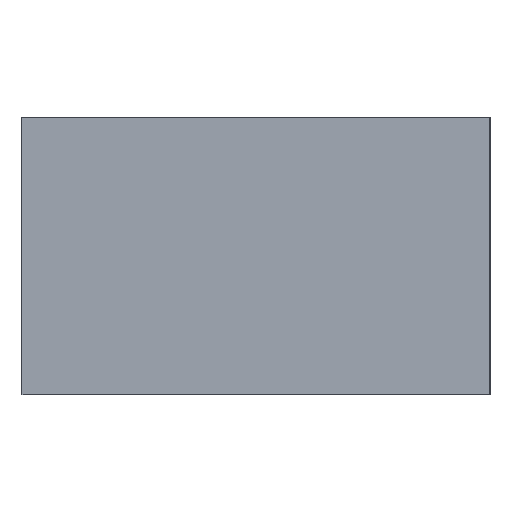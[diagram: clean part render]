
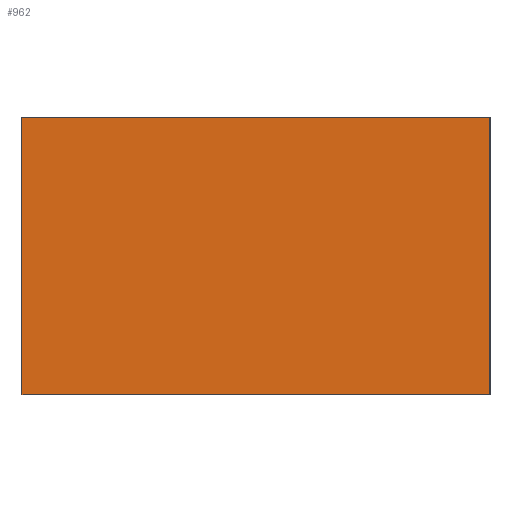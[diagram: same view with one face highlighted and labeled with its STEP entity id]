
A CAD part, front view. The second image highlights one B-rep face of the part: STEP entity #962.
In plain terms, the highlighted planar face has unit normal (0, -1, 0).
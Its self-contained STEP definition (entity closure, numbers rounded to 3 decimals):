
#26 = AXIS2_PLACEMENT_3D ( 'NONE', #38, #1363, #1260 ) ;
#38 = CARTESIAN_POINT ( 'NONE',  ( 0., 0., -10. ) ) ;
#115 = VECTOR ( 'NONE', #1088, 1000. ) ;
#160 = CARTESIAN_POINT ( 'NONE',  ( 16.891, 0., 0. ) ) ;
#176 = PLANE ( 'NONE',  #26 ) ;
#209 = ORIENTED_EDGE ( 'NONE', *, *, #1730, .F. ) ;
#277 = LINE ( 'NONE', #561, #1650 ) ;
#325 = ORIENTED_EDGE ( 'NONE', *, *, #1211, .F. ) ;
#373 = CARTESIAN_POINT ( 'NONE',  ( 0., 0., -10. ) ) ;
#432 = VECTOR ( 'NONE', #661, 1000. ) ;
#520 = VERTEX_POINT ( 'NONE', #1110 ) ;
#525 = CARTESIAN_POINT ( 'NONE',  ( 0., 0., 0. ) ) ;
#550 = VERTEX_POINT ( 'NONE', #160 ) ;
#561 = CARTESIAN_POINT ( 'NONE',  ( 0., 0., -10. ) ) ;
#661 = DIRECTION ( 'NONE',  ( 1., 0., 0. ) ) ;
#720 = DIRECTION ( 'NONE',  ( 0., 0., 1. ) ) ;
#827 = LINE ( 'NONE', #1095, #1024 ) ;
#945 = LINE ( 'NONE', #1580, #432 ) ;
#962 = ADVANCED_FACE ( 'NONE', ( #1250 ), #176, .T. ) ;
#1024 = VECTOR ( 'NONE', #720, 1000. ) ;
#1068 = LINE ( 'NONE', #1333, #115 ) ;
#1072 = ORIENTED_EDGE ( 'NONE', *, *, #1689, .T. ) ;
#1088 = DIRECTION ( 'NONE',  ( 1., 0., 0. ) ) ;
#1095 = CARTESIAN_POINT ( 'NONE',  ( 16.891, 0., -10. ) ) ;
#1110 = CARTESIAN_POINT ( 'NONE',  ( 16.891, 0., -10. ) ) ;
#1211 = EDGE_CURVE ( 'NONE', #1691, #550, #1068, .T. ) ;
#1250 = FACE_OUTER_BOUND ( 'NONE', #1351, .T. ) ;
#1260 = DIRECTION ( 'NONE',  ( 0., 0., -1. ) ) ;
#1266 = ORIENTED_EDGE ( 'NONE', *, *, #1338, .T. ) ;
#1333 = CARTESIAN_POINT ( 'NONE',  ( 0., 0., 0. ) ) ;
#1338 = EDGE_CURVE ( 'NONE', #520, #550, #827, .T. ) ;
#1351 = EDGE_LOOP ( 'NONE', ( #325, #209, #1072, #1266 ) ) ;
#1363 = DIRECTION ( 'NONE',  ( 0., -1., 0. ) ) ;
#1511 = DIRECTION ( 'NONE',  ( 0., 0., 1. ) ) ;
#1580 = CARTESIAN_POINT ( 'NONE',  ( 0., 0., -10. ) ) ;
#1650 = VECTOR ( 'NONE', #1511, 1000. ) ;
#1684 = VERTEX_POINT ( 'NONE', #373 ) ;
#1689 = EDGE_CURVE ( 'NONE', #1684, #520, #945, .T. ) ;
#1691 = VERTEX_POINT ( 'NONE', #525 ) ;
#1730 = EDGE_CURVE ( 'NONE', #1684, #1691, #277, .T. ) ;
